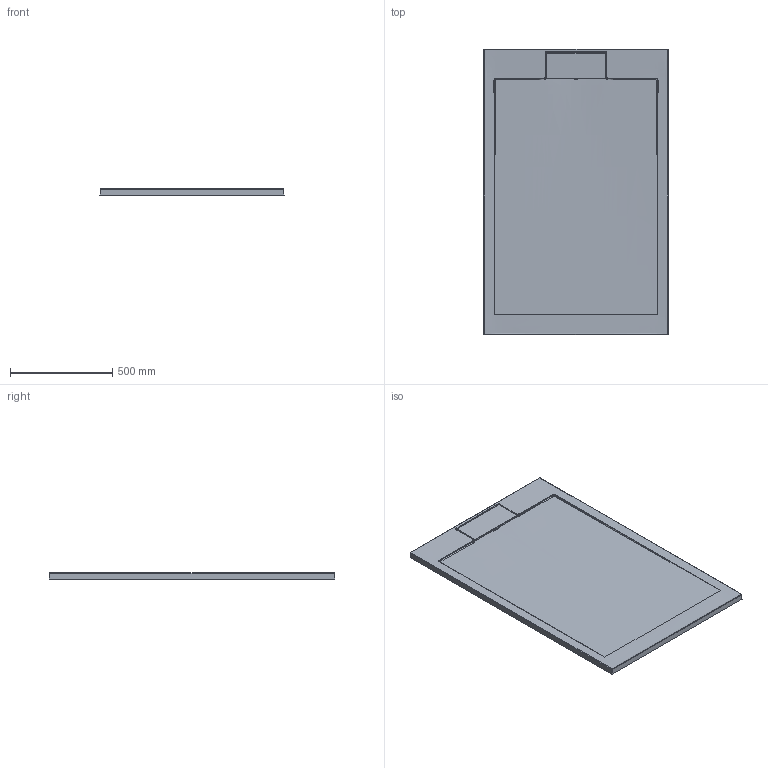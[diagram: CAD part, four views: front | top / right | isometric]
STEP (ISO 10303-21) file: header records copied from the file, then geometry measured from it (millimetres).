
FILE_DESCRIPTION (( 'STEP AP214' ), '1' );
FILE_NAME ('CORAL 140x90 A.STEP', '2024-05-13T10:00:27', ( '' ), ( '' ), 'SwSTEP 2.0', 'SolidWorks 2021', '' );
FILE_SCHEMA (( 'AUTOMOTIVE_DESIGN' ));
Length unit declared in the file: millimetre
Products named in the file (1): CORAL 140x90 A
Bounding box: 901.57 x 1400.96 x 30 mm (x, y, z)
Volume: 29861684.1 mm3; surface area: 2737259.5 mm2
Topology: 2 solids, 2 shells, 135 faces, 318 edges, 180 vertices
Faces by surface type: bspline 73, plane 31, cylinder 31
Full cylindrical faces by diameter (mm): 90 x1
Entity records: 19729 total; most frequent: CARTESIAN_POINT 17367, ORIENTED_EDGE 614, EDGE_CURVE 307, DIRECTION 215, B_SPLINE_CURVE_WITH_KNOTS 213, VERTEX_POINT 180, EDGE_LOOP 141, FACE_OUTER_BOUND 138
